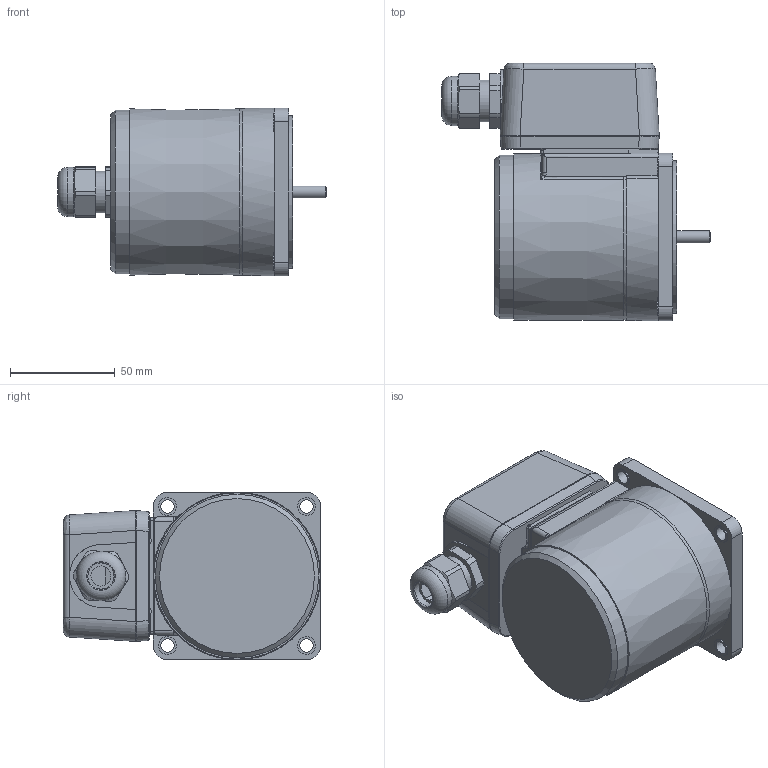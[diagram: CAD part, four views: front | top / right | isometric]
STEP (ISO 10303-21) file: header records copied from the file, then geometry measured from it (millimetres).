
FILE_DESCRIPTION(/* description */ (''),/* implementation_level */ '2;1');
FILE_NAME(/* name */ 'Y:\제품연구개발\3. 도면\3. 고객배포용\3D_홈페이지용\01-1 Standard AC SG Series\04 TERMINAL BOX TYPE MOTORS\INDUCTION TERMINAL BOX\SG8I25_-T_\SG8I25G_-T.stp',/* time_stamp */ '2023-12-06T09:55:21+09:00',/* author */ ('shyi1037'),/* organization */ (''),/* preprocessor_version */ 'ST-DEVELOPER v18.1',/* originating_system */ 'Autodesk Inventor 2022',/* authorisation */ '');
FILE_SCHEMA (('AUTOMOTIVE_DESIGN { 1 0 10303 214 3 1 1 }'));
Length unit declared in the file: millimetre
Products named in the file (1): SG8I25G_-T
Bounding box: 128.5 x 123 x 80 mm (x, y, z)
Volume: 629991.3 mm3; surface area: 58740.3 mm2
Topology: 1 solids, 9 shells, 366 faces, 908 edges, 579 vertices
Faces by surface type: plane 188, cylinder 108, bspline 47, torus 18, cone 5
Full cylindrical faces by diameter (mm): 2.55 x2, 5.6 x4, 5.72 x1, 6.3 x4, 6.5 x4, 8.5 x4, 12.5 x1, 15 x1, 20 x2, 21 x1, 23.6 x1, 34 x1, 73 x1, 78 x1
Entity records: 13393 total; most frequent: CARTESIAN_POINT 4533, ORIENTED_EDGE 1806, DIRECTION 1721, EDGE_CURVE 903, AXIS2_PLACEMENT_3D 615, VERTEX_POINT 580, LINE 491, VECTOR 491
